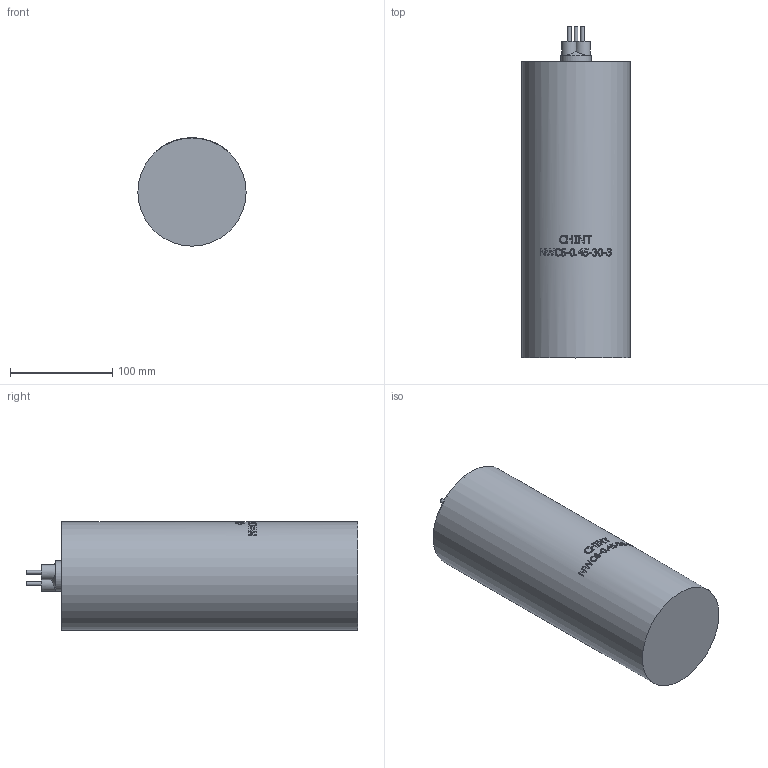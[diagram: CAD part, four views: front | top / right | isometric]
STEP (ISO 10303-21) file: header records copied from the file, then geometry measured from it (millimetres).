
FILE_DESCRIPTION(/* description */ (''),/* implementation_level */ '2;1');
FILE_NAME(/* name */ 'D:\CHINT3\\X2\041A043E043D04340435043D044104300442043E0440044B\X0\\NWC6-0.45-30-3.stp',/* time_stamp */ '2017-12-13T20:57:43+03:00',/* author */ ('RSagdiev'),/* organization */ (''),/* preprocessor_version */ 'ST-DEVELOPER v16.5',/* originating_system */ 'Autodesk Inventor 2017',/* authorisation */ '');
FILE_SCHEMA (('AUTOMOTIVE_DESIGN { 1 0 10303 214 3 1 1 }'));
Length unit declared in the file: millimetre
Products named in the file (1): NWC6-0.45-30-3
Bounding box: 106 x 325 x 106.1 mm (x, y, z)
Volume: 2563315.4 mm3; surface area: 118445.8 mm2
Topology: 5 solids, 5 shells, 303 faces, 804 edges, 535 vertices
Faces by surface type: plane 142, bspline 126, cylinder 32, cone 3
Full cylindrical faces by diameter (mm): 3.5 x3, 30 x1, 104 x1, 106 x1
Entity records: 11596 total; most frequent: CARTESIAN_POINT 4731, ORIENTED_EDGE 1594, DIRECTION 1067, EDGE_CURVE 797, VERTEX_POINT 534, LINE 367, VECTOR 367, AXIS2_PLACEMENT_3D 350
